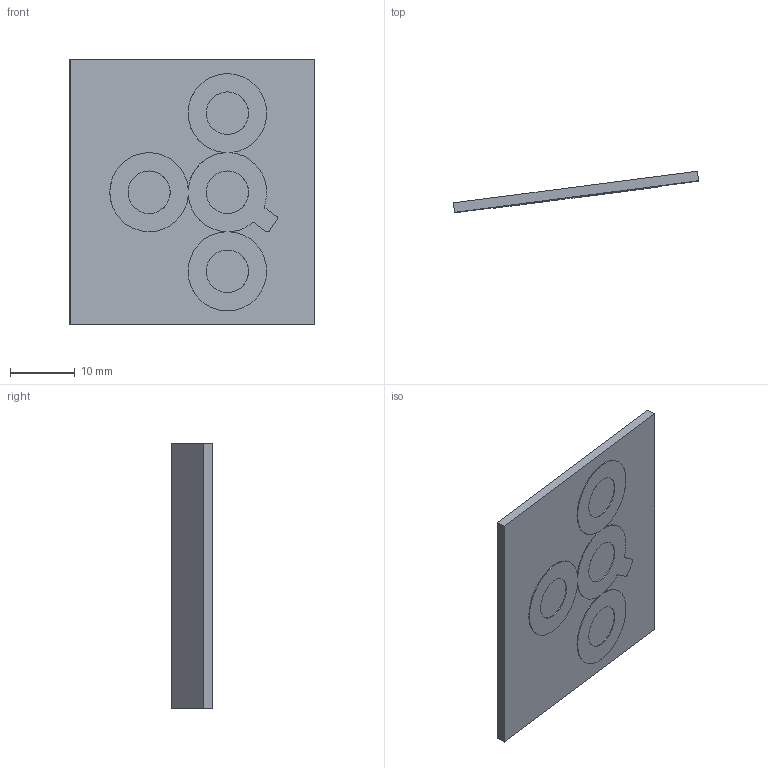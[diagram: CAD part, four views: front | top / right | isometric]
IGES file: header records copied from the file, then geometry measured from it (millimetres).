
Global section: file name: C:\Users\Usuario\Desktop\OGO\BIM\NOVEDADES 2024\DOT CUSHION\DOT CUSHION 50.igs; native system: Rhinoceros ( Feb 27 2019 ); preprocessor: Trout Lake IGES 012 Feb 27 2019; date: 241104.120129; units: millimetre
Bounding box: 37.87 x 6.37 x 40.92 mm (x, y, z)
Surface area: 4064.9 mm2 (no closed solid volume)
Topology: 0 solids, 0 shells, 279 faces, 1654 edges, 1654 vertices
Faces by surface type: bspline 279
